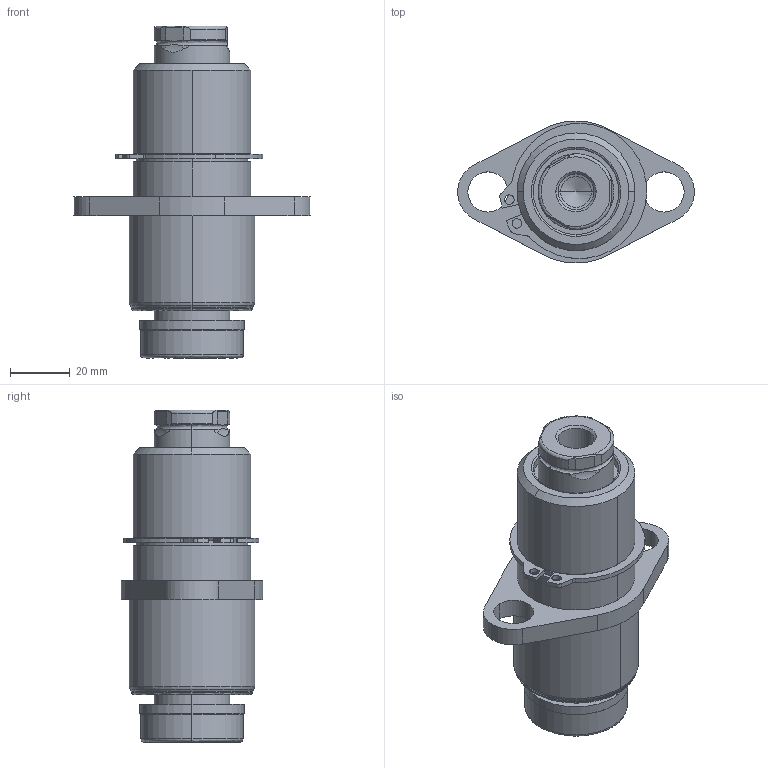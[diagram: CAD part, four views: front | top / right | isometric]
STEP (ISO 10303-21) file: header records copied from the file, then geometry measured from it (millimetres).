
FILE_DESCRIPTION (( 'STEP AP214' ), '1' );
FILE_NAME ('GK105-N3-2-TB-M-XXX.STEP', '2020-09-21T13:35:05', ( '' ), ( '' ), 'SwSTEP 2.0', 'SolidWorks 2017', '' );
FILE_SCHEMA (( 'AUTOMOTIVE_DESIGN' ));
Length unit declared in the file: inch
Products named in the file (7): GK105-M-XXX-GuidePin; GK105-N3-2-TB-M-XXX; GK105-DampeningWasher; GK1.00-N3-2-TB-Base; RetainingRing
Assembly tree (6 placements, depth 3):
  GK105-N3-2-TB-M-XXX
    GK1.00-N3-2-TB-Base
      GK1.00-N3-2-TB-Base
      RetainingRing
    GK105-M-XXX-GuidePin
      GK105-M-XXX-GuidePin
      GK105-DampeningWasher
Bounding box: 79.18 x 47.5 x 111.12 mm (x, y, z)
Volume: 127332.1 mm3; surface area: 36526.7 mm2
Topology: 4 solids, 4 shells, 130 faces, 324 edges, 207 vertices
Faces by surface type: cylinder 59, plane 36, bspline 23, cone 12
Entity records: 4936 total; most frequent: CARTESIAN_POINT 1498, ORIENTED_EDGE 644, DIRECTION 625, EDGE_CURVE 322, AXIS2_PLACEMENT_3D 256, VERTEX_POINT 207, EDGE_LOOP 149, CIRCLE 138
